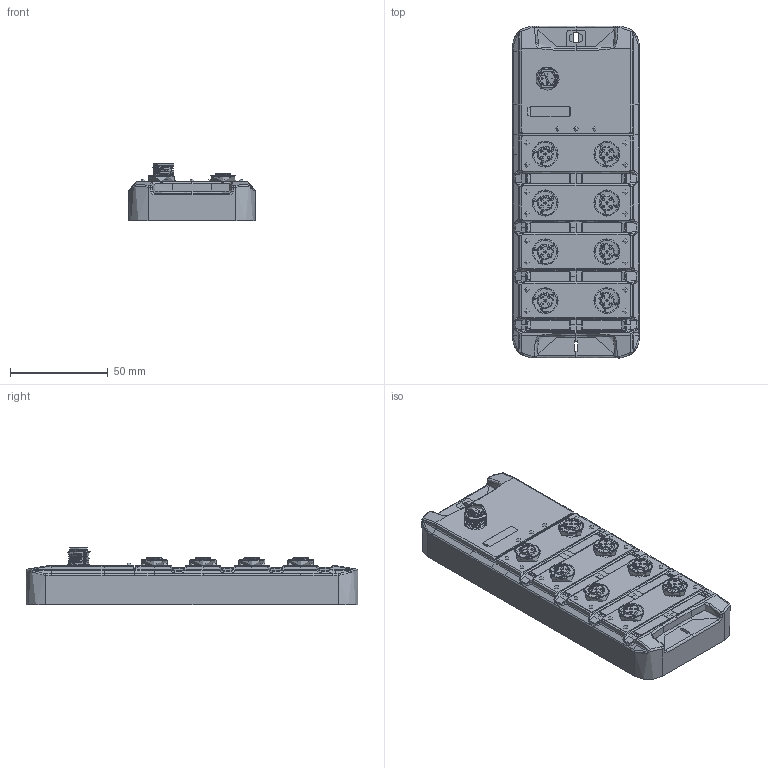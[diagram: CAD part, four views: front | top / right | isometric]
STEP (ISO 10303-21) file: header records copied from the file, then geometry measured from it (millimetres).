
FILE_DESCRIPTION(/* description */ (''),/* implementation_level */ '2;1');
FILE_NAME(/* name */ 'D.stp',/* time_stamp */ '2023-04-24T11:13:42+08:00',/* author */ (''),/* organization */ (''),/* preprocessor_version */ 'ST-DEVELOPER v16',/* originating_system */ 'SIEMENS PLM Software NX 10.0',/* authorisation */ '');
FILE_SCHEMA (('AP203_CONFIGURATION_CONTROLLED_3D_DESIGN_OF_MECHANICAL_PARTS_AND_ASSEMBLIES_MIM_LF { 1 0 10303 403 2 1 2}'));
Products named in the file (1): chao5F90CA99lhy9
Bounding box: 65 x 170 x 29.3 mm (x, y, z)
Volume: 199287.5 mm3; surface area: 44783.9 mm2
Topology: 11 solids, 12 shells, 1597 faces, 4003 edges, 2540 vertices
Faces by surface type: bspline 652, cylinder 423, plane 361, cone 107, torus 31, sphere 23
Full cylindrical faces by diameter (mm): 8.3 x1, 13.35 x8
Entity records: 95011 total; most frequent: CARTESIAN_POINT 62374, ORIENTED_EDGE 7866, DIRECTION 4866, EDGE_CURVE 3933, VERTEX_POINT 2520, AXIS2_PLACEMENT_3D 1849, B_SPLINE_CURVE_WITH_KNOTS 1807, EDGE_LOOP 1762
